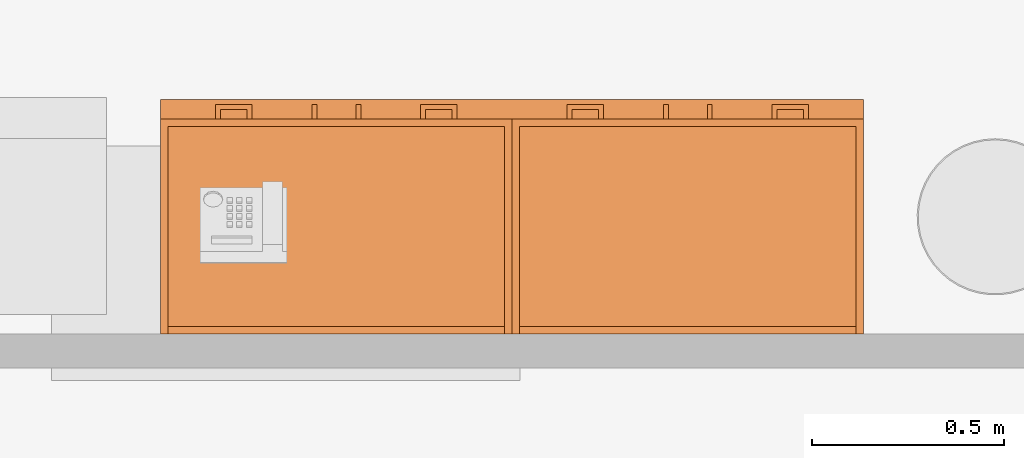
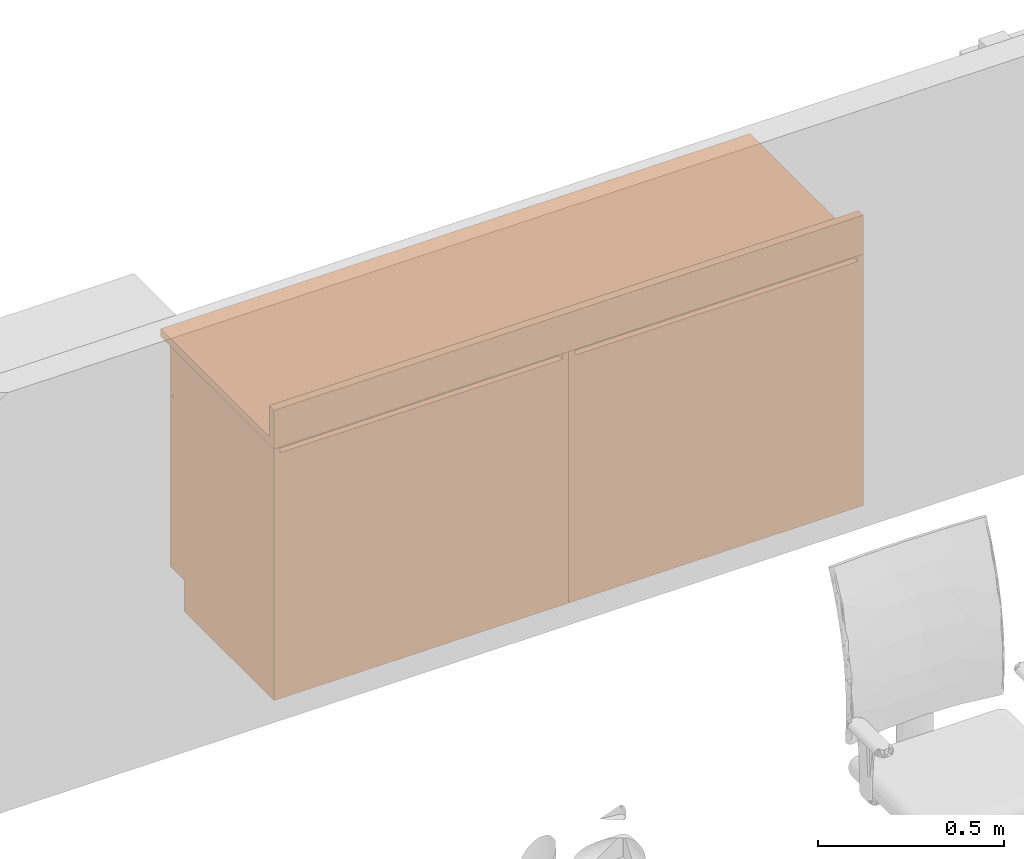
# One storey, part 30 of 142: 3 proxies.
"""IFC2X3 building model written with IfcOpenShell, lengths in feet."""

from ifc_helpers import new_model, entity, si_unit, converted_unit, derived_unit, direction, frame, frame_2d, origin, origin_2d_with_axis, place, context, subcontext, project, spatial, polyline, rectangle, outline, extrude, source, transform, mapped, type_object, type_shapes, element, save


model = new_model("IFC2X3")

# Units and contexts
model_context = context("Model", 3, precision=0.0001, world=origin(), true_north=direction((6.12303176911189e-17, 1.0)))
body_context = subcontext(model_context, "Body", "Model", "MODEL_VIEW")
ifc_project = project(units=[converted_unit("LENGTHUNIT", "FOOT", entity("IfcRatioMeasure", 0.3048), si_unit("LENGTHUNIT", "METRE"), dimensions=[1, 0, 0, 0, 0, 0, 0]), converted_unit("AREAUNIT", "SQUARE FOOT", entity("IfcRatioMeasure", 0.09290304), si_unit("AREAUNIT", "SQUARE_METRE"), dimensions=[2, 0, 0, 0, 0, 0, 0]), converted_unit("VOLUMEUNIT", "CUBIC FOOT", entity("IfcRatioMeasure", 0.028316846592), si_unit("VOLUMEUNIT", "CUBIC_METRE"), dimensions=[3, 0, 0, 0, 0, 0, 0]), converted_unit("PLANEANGLEUNIT", "DEGREE", entity("IfcRatioMeasure", 0.0174532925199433), si_unit("PLANEANGLEUNIT", "RADIAN"), dimensions=[0, 0, 0, 0, 0, 0, 0]), si_unit("MASSUNIT", "GRAM", prefix="KILO"), derived_unit("MASSDENSITYUNIT", [(si_unit("MASSUNIT", "GRAM", prefix="KILO"), 1), (si_unit("LENGTHUNIT", "METRE"), -3)]), si_unit("TIMEUNIT", "SECOND"), si_unit("FREQUENCYUNIT", "HERTZ"), si_unit("THERMODYNAMICTEMPERATUREUNIT", "DEGREE_CELSIUS"), derived_unit("THERMALTRANSMITTANCEUNIT", [(si_unit("MASSUNIT", "GRAM", prefix="KILO"), 1), (si_unit("THERMODYNAMICTEMPERATUREUNIT", "KELVIN"), -1), (si_unit("TIMEUNIT", "SECOND"), -3)]), derived_unit("VOLUMETRICFLOWRATEUNIT", [(si_unit("LENGTHUNIT", "METRE"), 3), (si_unit("TIMEUNIT", "SECOND"), -1)]), si_unit("ELECTRICCURRENTUNIT", "AMPERE"), si_unit("ELECTRICVOLTAGEUNIT", "VOLT"), si_unit("POWERUNIT", "WATT"), si_unit("FORCEUNIT", "NEWTON"), si_unit("ILLUMINANCEUNIT", "LUX"), si_unit("LUMINOUSFLUXUNIT", "LUMEN"), si_unit("LUMINOUSINTENSITYUNIT", "CANDELA"), derived_unit("USERDEFINED", [(si_unit("MASSUNIT", "GRAM", prefix="KILO"), -1), (si_unit("LENGTHUNIT", "METRE"), -2), (si_unit("TIMEUNIT", "SECOND"), 3), (si_unit("LUMINOUSFLUXUNIT", "LUMEN"), 1)]), derived_unit("LINEARVELOCITYUNIT", [(si_unit("LENGTHUNIT", "METRE"), 1), (si_unit("TIMEUNIT", "SECOND"), -1)]), si_unit("PRESSUREUNIT", "PASCAL"), derived_unit("USERDEFINED", [(si_unit("LENGTHUNIT", "METRE"), -2), (si_unit("MASSUNIT", "GRAM", prefix="KILO"), 1), (si_unit("TIMEUNIT", "SECOND"), -2)])], contexts=[model_context])

# Site, building, storey, space
site_placement = place(None, origin())
site = spatial("IfcSite", under=ifc_project, at=site_placement, Name="Default", CompositionType="ELEMENT")
building_placement = place(site_placement, origin())
building = spatial("IfcBuilding", under=site, at=building_placement, Name="OUTPATIENT / PACT CLINIC (Ch. 265)", CompositionType="ELEMENT")
storey_placement = place(building_placement, origin())
storey = spatial("IfcBuildingStorey", under=building, at=storey_placement, Name="LEVEL 1", CompositionType="ELEMENT", Elevation=0.0)
space_placement = place(storey_placement, origin())
space = spatial("IfcSpace", under=storey, at=space_placement, Name="RCA02", CompositionType="ELEMENT", InteriorOrExteriorSpace="INTERNAL")

# Proxies
building_element_proxy_type_1 = type_object("IfcBuildingElementProxyType", Name="CT020 - Countertop, Solid Surface - No Opening", PredefinedType="NOTDEFINED")
shared_shape_1 = source(origin(), body_context, "Body", "SweptSolid", [
    extrude(rectangle(XDim=6.0, YDim=0.083333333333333, at=frame_2d((0.0, -5.55111512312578e-17), x_axis=(1.0, 0.0))), frame((0.0, 0.958333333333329, 0.0833333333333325)), (0.0, 0.0, 1.0), 0.333333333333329),
    extrude(rectangle(XDim=6.0, YDim=2.0, at=frame_2d((0.0, -5.55111512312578e-17), x_axis=(1.0, 0.0))), origin(), (0.0, 0.0, 1.0), 0.0833333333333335),
])
type_shapes(building_element_proxy_type_1, [shared_shape_1])
proxy_placement = place(space_placement, frame((415.28902116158, -912.837185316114, 2.708226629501), z_axis=(0.0, 0.0, 1.0), x_axis=(-1.0, 0.0, 0.0)))
element("IfcBuildingElementProxy", 1, at=proxy_placement, inside=space, type_object=building_element_proxy_type_1, Name="CT020 - Countertop, Solid Surface - No Opening:CT020 - Countertop, Solid Surface - No Opening", ObjectType="CT020 - Countertop, Solid Surface - No Opening", context=body_context, shape_type="MappedRepresentation", body=[
    mapped(shared_shape_1, transform((0.0, 0.0, 0.0), scale=1.0)),
])
building_element_proxy_type_2 = type_object("IfcBuildingElementProxyType", Name="C04F0 - Cabinet, U-C-B, 1 Shelf, 2 Half DR, 2 DO, 36x36x22", PredefinedType="NOTDEFINED")
shared_shape_2 = source(origin(), body_context, "Body", "SweptSolid", [
    extrude(rectangle(XDim=0.0625, YDim=1.50000000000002, at=origin_2d_with_axis()), frame((-0.750000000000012, -0.885416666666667, 0.333333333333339), z_axis=(0.0, 0.0, 1.0), x_axis=(0.0, 1.0, 0.0)), (0.0, 0.0, 1.0), 1.85416666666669),
    extrude(outline(polyline([(-0.15625, -0.0729036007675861), (0.15625, -0.0729036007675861), (0.15625, 0.0520963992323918), (0.114635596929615, 0.0520963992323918), (0.114635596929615, -0.0312891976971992), (-0.114635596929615, -0.0312891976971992), (-0.114635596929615, 0.0520963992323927), (-0.15625, 0.0520963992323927), (-0.15625, -0.0729036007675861)])), frame((-0.87499999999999, -0.968763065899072, 2.43223831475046)), (0.0, 0.0, 1.0), 0.0416666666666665),
    extrude(outline(polyline([(-0.0729036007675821, -0.15625), (0.0520963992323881, -0.15625), (0.0520963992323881, -0.114635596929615), (-0.0312891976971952, -0.114635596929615), (-0.0312891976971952, 0.114635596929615), (0.052096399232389, 0.114635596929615), (0.052096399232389, 0.15625), (-0.0729036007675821, 0.15625), (-0.0729036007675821, -0.15625)])), frame((0.875000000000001, -0.968763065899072, 2.43223831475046), z_axis=(0.0, 0.0, 1.0), x_axis=(0.0, 1.0, 0.0)), (0.0, 0.0, 1.0), 0.0416666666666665),
    extrude(rectangle(XDim=0.0625, YDim=1.49999999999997, at=origin_2d_with_axis()), frame((0.749999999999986, -0.885416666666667, 0.333333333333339), z_axis=(0.0, 0.0, 1.0), x_axis=(0.0, 1.0, 0.0)), (0.0, 0.0, 1.0), 1.8541666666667),
    extrude(outline(polyline([(-0.0729036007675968, -0.15625), (0.0520963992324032, -0.15625), (0.0520963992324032, -0.114635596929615), (-0.0312891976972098, -0.114635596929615), (-0.0312891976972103, 0.114635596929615), (0.0520963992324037, 0.114635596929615), (0.0520963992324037, 0.156250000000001), (-0.0729036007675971, 0.15625), (-0.0729036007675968, -0.15625)])), frame((0.16570383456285, -0.968763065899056, 1.87493797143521), z_axis=(1.0, 0.0, 0.0), x_axis=(0.0, 1.0, 0.0)), (0.0, 0.0, 1.0), 0.0416666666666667),
    extrude(outline(polyline([(-0.0729036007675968, -0.156250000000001), (0.0520963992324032, -0.156250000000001), (0.0520963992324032, -0.114635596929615), (-0.0312891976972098, -0.114635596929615), (-0.0312891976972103, 0.114635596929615), (0.0520963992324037, 0.114635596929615), (0.0520963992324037, 0.15625), (-0.0729036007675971, 0.15625), (-0.0729036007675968, -0.156250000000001)])), frame((-0.209296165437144, -0.968763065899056, 1.87493797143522), z_axis=(1.0, 0.0, 0.0), x_axis=(0.0, 1.0, 0.0)), (0.0, 0.0, 1.0), 0.0416666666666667),
    extrude(rectangle(XDim=0.0625, YDim=1.52083333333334, at=frame_2d((0.0, -5.55111512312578e-17), x_axis=(1.0, 0.0))), frame((-1.46875, 0.156250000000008, 0.0)), (0.0, 0.0, 1.0), 0.333333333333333),
    extrude(rectangle(XDim=0.0625, YDim=1.52083333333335, at=frame_2d((1.11022302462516e-16, 5.55111512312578e-17), x_axis=(1.0, 0.0))), frame((1.46875, 0.156250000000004, 0.0)), (0.0, 0.0, 1.0), 0.333333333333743),
    extrude(rectangle(XDim=0.0625, YDim=1.77083333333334, at=frame_2d((-2.22044604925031e-16, 5.55111512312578e-17), x_axis=(1.0, 0.0))), frame((1.46875, 0.0312500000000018, 0.333333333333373)), (0.0, 0.0, 1.0), 2.37489329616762),
    extrude(rectangle(XDim=0.0625, YDim=1.77083333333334, at=frame_2d((0.0, -5.55111512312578e-17), x_axis=(1.0, 0.0))), frame((-1.46875, 0.0312500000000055, 0.333333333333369)), (0.0, 0.0, 1.0), 2.37489329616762),
    extrude(rectangle(XDim=0.0625, YDim=1.5, at=frame_2d((5.55111512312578e-17, 1.11022302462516e-16), x_axis=(1.0, 0.0))), frame((0.749999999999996, -0.885416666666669, 2.20822662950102), z_axis=(0.0, 0.0, 1.0), x_axis=(0.0, 1.0, 0.0)), (0.0, 0.0, 1.0), 0.499999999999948),
    extrude(rectangle(XDim=0.0625, YDim=1.5, at=frame_2d((-5.55111512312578e-17, 0.0), x_axis=(1.0, 0.0))), frame((-0.750000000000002, -0.885416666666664, 2.20822662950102), z_axis=(0.0, 0.0, 1.0), x_axis=(0.0, 1.0, 0.0)), (0.0, 0.0, 1.0), 0.499999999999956),
    extrude(rectangle(XDim=0.0625, YDim=3.0, at=frame_2d((-5.55111512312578e-17, 1.11022302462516e-16), x_axis=(1.0, 0.0))), frame((0.0, -0.635416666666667, 0.0), z_axis=(0.0, 0.0, 1.0), x_axis=(0.0, 1.0, 0.0)), (0.0, 0.0, 1.0), 0.333333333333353),
    extrude(rectangle(XDim=0.0625, YDim=3.0, at=origin_2d_with_axis()), frame((0.0, 0.885416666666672, 0.0), z_axis=(0.0, 0.0, 1.0), x_axis=(0.0, 1.0, 0.0)), (0.0, 0.0, 1.0), 0.333333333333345),
    extrude(rectangle(XDim=2.875, YDim=1.70833333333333, at=origin_2d_with_axis()), frame((0.0, 0.0, 0.333333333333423), z_axis=(0.0, 0.0, 1.0), x_axis=(-1.0, 0.0, 0.0)), (0.0, 0.0, 1.0), 0.0627188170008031),
    extrude(rectangle(XDim=0.0625, YDim=2.875, at=origin_2d_with_axis()), frame((0.0, 0.885416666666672, 0.333333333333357), z_axis=(0.0, 0.0, 1.0), x_axis=(0.0, 1.0, 0.0)), (0.0, 0.0, 1.0), 2.31239329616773),
])
type_shapes(building_element_proxy_type_2, [shared_shape_2])
for number, where, z_axis, x_axis in (
    (2, (413.78902116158, -912.920518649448, 0.0), (0.0, 0.0, 1.0), (-1.0, 0.0, 0.0)),
    (3, (416.78902116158, -912.920518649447, 0.0), (0.0, 0.0, 1.0), (-1.0, 0.0, 0.0)),
):
    element("IfcBuildingElementProxy", number, at=place(space_placement, frame(where, z_axis=z_axis, x_axis=x_axis)), inside=space, type_object=building_element_proxy_type_2, Name="C04F0 - Cabinet, U-C-B, 1 Shelf, 2 Half DR, 2 DO, 36x36x22:C04F0 - Cabinet, U-C-B, 1 Shelf, 2 Half DR, 2 DO, 36x36x22", ObjectType="C04F0 - Cabinet, U-C-B, 1 Shelf, 2 Half DR, 2 DO, 36x36x22", context=body_context, shape_type="MappedRepresentation", body=[
        mapped(shared_shape_2, transform((0.0, 0.0, 0.0), scale=1.0)),
    ])

save(model, "model.ifc")
